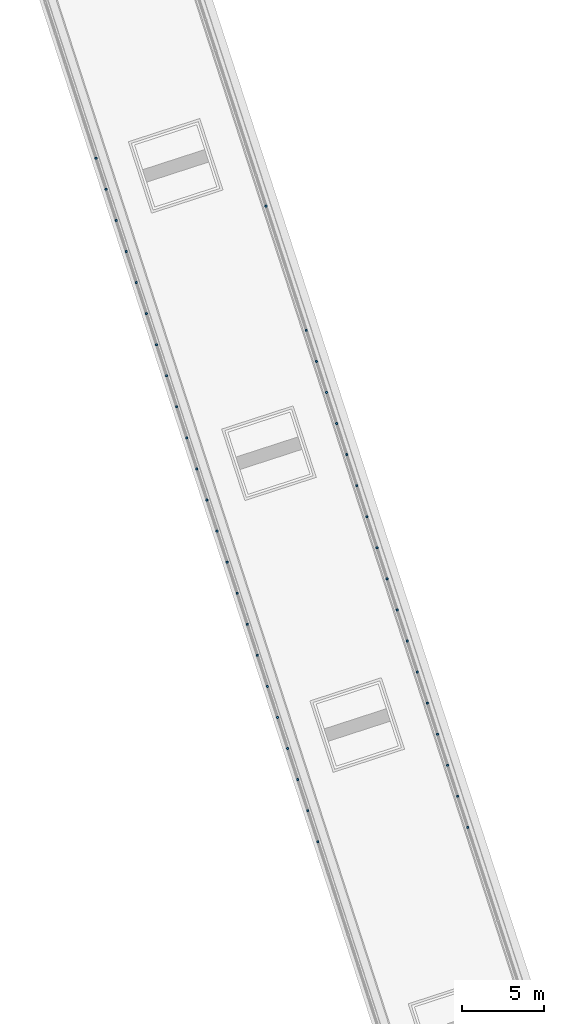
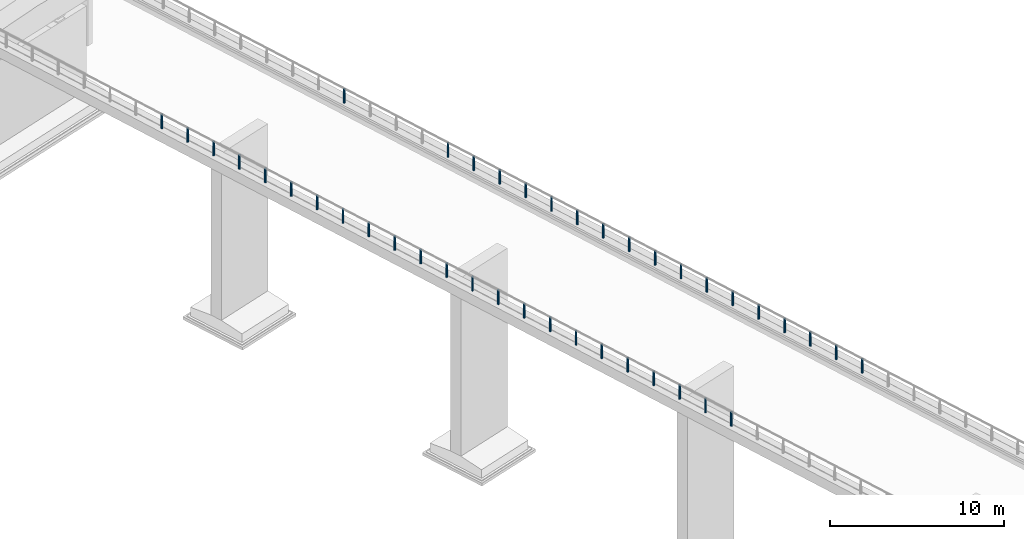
# Not in any storey, part 3 of 10: 41 members, 2 elements without a shape of their own.
"""IFC4X3_ADD2 model written with IfcOpenShell, lengths in metres."""

from ifc_helpers import new_model, entity, si_unit, converted_unit, derived_unit, direction, frame, origin, origin_2d, place, context, subcontext, project, library, spatial, circle, extrude, source, transform, mapped, type_object, type_shapes, element, aggregate, save


model = new_model("IFC4X3_ADD2")

# Units and contexts
model_context = context("Model", 3, precision=1e-05, world=origin(), true_north=direction((-0.011993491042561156, 0.9999280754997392)))
plan_context = context("Plan", 2, precision=1e-05, world=origin_2d())
body_context = subcontext(model_context, "Body", "Model", "MODEL_VIEW")
ifc_project = project(units=[si_unit("LENGTHUNIT", "METRE"), si_unit("AREAUNIT", "SQUARE_METRE"), si_unit("VOLUMEUNIT", "CUBIC_METRE"), si_unit("MASSUNIT", "GRAM", prefix="KILO"), converted_unit("TIMEUNIT", "year", entity("IfcTimeMeasure", 31557600.0), si_unit("TIMEUNIT", "SECOND"), dimensions=[0, 0, 1, 0, 0, 0, 0]), si_unit("PLANEANGLEUNIT", "RADIAN"), si_unit("THERMODYNAMICTEMPERATUREUNIT", "DEGREE_CELSIUS"), si_unit("FORCEUNIT", "NEWTON", prefix="KILO"), si_unit("PRESSUREUNIT", "PASCAL", prefix="MEGA"), si_unit("SOLIDANGLEUNIT", "STERADIAN"), derived_unit("MASSDENSITYUNIT", [(si_unit("MASSUNIT", "GRAM", prefix="KILO"), 1), (si_unit("VOLUMEUNIT", "CUBIC_METRE"), -1)]), derived_unit("MODULUSOFELASTICITYUNIT", [(si_unit("PRESSUREUNIT", "PASCAL", prefix="MEGA"), 1)]), derived_unit("THERMALEXPANSIONCOEFFICIENTUNIT", [(si_unit("THERMODYNAMICTEMPERATUREUNIT", "DEGREE_CELSIUS"), -1)])], contexts=[model_context, plan_context])
project_library = library(declared=ifc_project)

# Site, bridge, bridge parts
site_placement = place(None, origin())
site = spatial("IfcSite", under=ifc_project, at=site_placement, Name="Site BR-01", CompositionType="ELEMENT")
bridge_placement = place(site_placement, origin())
bridge = spatial("IfcBridge", under=site, at=bridge_placement, Name="BR-01", CompositionType="ELEMENT", PredefinedType="USERDEFINED")
bridge_part_1_placement = place(bridge_placement, origin())
bridge_part_1 = spatial("IfcBridgePart", under=bridge, at=bridge_part_1_placement, Name="Superstructure", CompositionType="ELEMENT", PredefinedType="SUPERSTRUCTURE", UsageType="LONGITUDINAL")
bridge_part_2_placement = place(bridge_part_1_placement, frame((0.0, 0.0, 62.729)))
bridge_part_2 = spatial("IfcBridgePart", under=bridge_part_1, at=bridge_part_2_placement, Name="Deck", CompositionType="ELEMENT", PredefinedType="DECK", UsageType="LONGITUDINAL")

# Railing, members
railing_1_placement = place(bridge_part_2_placement, frame((17.7389524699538, 118.69444238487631, 3.2577553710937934), z_axis=(0.0, 0.0, 1.0), x_axis=(0.3088039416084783, -0.951125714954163, 0.0)))
railing_1 = element("IfcRailing", 1, at=railing_1_placement, inside=bridge_part_2, Name="Bridge railing left", PredefinedType="GUARDRAIL")
member_type = type_object("IfcMemberType", Name="Railing post D140", PredefinedType="POST")
shared_shape = source(origin(), body_context, "Body", "SweptSolid", [extrude(circle(Radius=0.07), origin(), (0.0, 0.0, 1.0), 1.0)])
type_shapes(member_type, [shared_shape])
member_1_placement = place(bridge_part_2_placement, frame((25.150115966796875, 95.86763000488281, 2.1512947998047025), z_axis=(0.0, 0.0, 1.0), x_axis=(0.3088039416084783, -0.951125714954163, 0.0)))
member_1 = element("IfcMember", 2, at=member_1_placement, type_object=member_type, Name="Railing post left 13", PredefinedType="POST", context=body_context, shape_type="MappedRepresentation", body=[
    mapped(shared_shape, transform((0.0, 0.0, 0.0))),
])
member_2_placement = place(bridge_part_2_placement, frame((27.62050347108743, 88.25869164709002, 2.1158104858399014), z_axis=(0.0, 0.0, 1.0), x_axis=(0.3088039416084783, -0.951125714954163, 0.0)))
member_2 = element("IfcMember", 3, at=member_2_placement, type_object=member_type, Name="Railing post left 17", PredefinedType="POST", context=body_context, shape_type="MappedRepresentation", body=[
    mapped(shared_shape, transform((0.0, 0.0, 0.0))),
])
member_3_placement = place(bridge_part_2_placement, frame((28.23810108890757, 86.3564569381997, 2.106937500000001), z_axis=(0.0, 0.0, 1.0), x_axis=(0.3088039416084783, -0.951125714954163, 0.0)))
member_3 = element("IfcMember", 4, at=member_3_placement, type_object=member_type, Name="Railing post left 18", PredefinedType="POST", context=body_context, shape_type="MappedRepresentation", body=[
    mapped(shared_shape, transform((0.0, 0.0, 0.0))),
])
member_4_placement = place(bridge_part_2_placement, frame((28.855697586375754, 84.45422186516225, 2.0980645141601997), z_axis=(0.0, 0.0, 1.0), x_axis=(0.3088039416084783, -0.951125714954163, 0.0)))
member_4 = element("IfcMember", 5, at=member_4_placement, type_object=member_type, Name="Railing post left 19", PredefinedType="POST", context=body_context, shape_type="MappedRepresentation", body=[
    mapped(shared_shape, transform((0.0, 0.0, 0.0))),
])
member_5_placement = place(bridge_part_2_placement, frame((29.473294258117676, 82.55198860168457, 2.089191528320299), z_axis=(0.0, 0.0, 1.0), x_axis=(0.3088039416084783, -0.951125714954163, 0.0)))
member_5 = element("IfcMember", 6, at=member_5_placement, type_object=member_type, Name="Railing post left 20", PredefinedType="POST", context=body_context, shape_type="MappedRepresentation", body=[
    mapped(shared_shape, transform((0.0, 0.0, 0.0))),
])
member_6_placement = place(bridge_part_2_placement, frame((30.090891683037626, 80.64975375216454, 2.080318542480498), z_axis=(0.0, 0.0, 1.0), x_axis=(0.3088039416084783, -0.951125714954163, 0.0)))
member_6 = element("IfcMember", 7, at=member_6_placement, type_object=member_type, Name="Railing post left 21", PredefinedType="POST", context=body_context, shape_type="MappedRepresentation", body=[
    mapped(shared_shape, transform((0.0, 0.0, 0.0))),
])
member_7_placement = place(bridge_part_2_placement, frame((30.708487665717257, 78.74752026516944, 2.0714531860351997), z_axis=(0.0, 0.0, 1.0), x_axis=(0.3088039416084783, -0.951125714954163, 0.0)))
member_7 = element("IfcMember", 8, at=member_7_placement, type_object=member_type, Name="Railing post left 22", PredefinedType="POST", context=body_context, shape_type="MappedRepresentation", body=[
    mapped(shared_shape, transform((0.0, 0.0, 0.0))),
])
member_8_placement = place(bridge_part_2_placement, frame((31.326084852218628, 76.84528541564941, 2.062580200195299), z_axis=(0.0, 0.0, 1.0), x_axis=(0.3088039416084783, -0.951125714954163, 0.0)))
member_8 = element("IfcMember", 9, at=member_8_placement, type_object=member_type, Name="Railing post left 23", PredefinedType="POST", context=body_context, shape_type="MappedRepresentation", body=[
    mapped(shared_shape, transform((0.0, 0.0, 0.0))),
])
member_9_placement = place(bridge_part_2_placement, frame((31.943681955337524, 74.94305229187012, 2.053707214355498), z_axis=(0.0, 0.0, 1.0), x_axis=(0.3088039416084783, -0.951125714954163, 0.0)))
member_9 = element("IfcMember", 10, at=member_9_placement, type_object=member_type, Name="Railing post left 24", PredefinedType="POST", context=body_context, shape_type="MappedRepresentation", body=[
    mapped(shared_shape, transform((0.0, 0.0, 0.0))),
])
member_10_placement = place(bridge_part_2_placement, frame((32.561278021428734, 73.04081707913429, 2.0448342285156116), z_axis=(0.0, 0.0, 1.0), x_axis=(0.3088039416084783, -0.951125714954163, 0.0)))
member_10 = element("IfcMember", 11, at=member_10_placement, type_object=member_type, Name="Railing post left 25", PredefinedType="POST", context=body_context, shape_type="MappedRepresentation", body=[
    mapped(shared_shape, transform((0.0, 0.0, 0.0))),
])
member_11_placement = place(bridge_part_2_placement, frame((33.17887568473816, 71.13858222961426, 2.0359612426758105), z_axis=(0.0, 0.0, 1.0), x_axis=(0.3088039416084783, -0.951125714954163, 0.0)))
member_11 = element("IfcMember", 12, at=member_11_placement, type_object=member_type, Name="Railing post left 26", PredefinedType="POST", context=body_context, shape_type="MappedRepresentation", body=[
    mapped(shared_shape, transform((0.0, 0.0, 0.0))),
])
member_12_placement = place(bridge_part_2_placement, frame((33.7964723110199, 69.23634910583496, 2.027095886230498), z_axis=(0.0, 0.0, 1.0), x_axis=(0.3088039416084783, -0.951125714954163, 0.0)))
member_12 = element("IfcMember", 13, at=member_12_placement, type_object=member_type, Name="Railing post left 27", PredefinedType="POST", context=body_context, shape_type="MappedRepresentation", body=[
    mapped(shared_shape, transform((0.0, 0.0, 0.0))),
])
member_13_placement = place(bridge_part_2_placement, frame((34.414069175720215, 67.33411407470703, 2.0182229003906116), z_axis=(0.0, 0.0, 1.0), x_axis=(0.3088039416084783, -0.951125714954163, 0.0)))
member_13 = element("IfcMember", 14, at=member_13_placement, type_object=member_type, Name="Railing post left 28", PredefinedType="POST", context=body_context, shape_type="MappedRepresentation", body=[
    mapped(shared_shape, transform((0.0, 0.0, 0.0))),
])
member_14_placement = place(bridge_part_2_placement, frame((35.03166604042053, 65.4318790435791, 2.0093499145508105), z_axis=(0.0, 0.0, 1.0), x_axis=(0.3088039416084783, -0.951125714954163, 0.0)))
member_14 = element("IfcMember", 15, at=member_14_placement, type_object=member_type, Name="Railing post left 29", PredefinedType="POST", context=body_context, shape_type="MappedRepresentation", body=[
    mapped(shared_shape, transform((0.0, 0.0, 0.0))),
])
member_15_placement = place(bridge_part_2_placement, frame((35.64926290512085, 63.529645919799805, 2.00047692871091), z_axis=(0.0, 0.0, 1.0), x_axis=(0.3088039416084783, -0.951125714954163, 0.0)))
member_15 = element("IfcMember", 16, at=member_15_placement, type_object=member_type, Name="Railing post left 30", PredefinedType="POST", context=body_context, shape_type="MappedRepresentation", body=[
    mapped(shared_shape, transform((0.0, 0.0, 0.0))),
])
member_16_placement = place(bridge_part_2_placement, frame((36.26685988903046, 61.627410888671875, 1.9916039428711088), z_axis=(0.0, 0.0, 1.0), x_axis=(0.3088039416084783, -0.951125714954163, 0.0)))
member_16 = element("IfcMember", 17, at=member_16_placement, type_object=member_type, Name="Railing post left 31", PredefinedType="POST", context=body_context, shape_type="MappedRepresentation", body=[
    mapped(shared_shape, transform((0.0, 0.0, 0.0))),
])
member_17_placement = place(bridge_part_2_placement, frame((36.884456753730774, 59.725175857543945, 1.9827309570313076), z_axis=(0.0, 0.0, 1.0), x_axis=(0.3088039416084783, -0.951125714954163, 0.0)))
member_17 = element("IfcMember", 18, at=member_17_placement, type_object=member_type, Name="Railing post left 32", PredefinedType="POST", context=body_context, shape_type="MappedRepresentation", body=[
    mapped(shared_shape, transform((0.0, 0.0, 0.0))),
])
member_18_placement = place(bridge_part_2_placement, frame((37.50205389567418, 57.82294187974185, 1.9738656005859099), z_axis=(0.0, 0.0, 1.0), x_axis=(0.3088039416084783, -0.951125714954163, 0.0)))
member_18 = element("IfcMember", 19, at=member_18_placement, type_object=member_type, Name="Railing post left 33", PredefinedType="POST", context=body_context, shape_type="MappedRepresentation", body=[
    mapped(shared_shape, transform((0.0, 0.0, 0.0))),
])
aggregate(railing_1, [member_1, member_2, member_3, member_4, member_5, member_6, member_7, member_8, member_9, member_10, member_11, member_12, member_13, member_14, member_15, member_16, member_17, member_18])

railing_2_placement = place(bridge_part_2_placement, frame((9.178916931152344, 115.91495513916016, 3.319721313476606), z_axis=(0.0, 0.0, 1.0), x_axis=(0.3088039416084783, -0.951125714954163, 0.0)))
railing_2 = element("IfcRailing", 20, at=railing_2_placement, inside=bridge_part_2, Name="Bridge railing right", PredefinedType="GUARDRAIL")
member_19_placement = place(bridge_part_2_placement, frame((14.737267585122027, 98.79489870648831, 2.2278710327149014), z_axis=(0.0, 0.0, 1.0), x_axis=(0.3088039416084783, -0.951125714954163, 0.0)))
member_19 = element("IfcMember", 21, at=member_19_placement, type_object=member_type, Name="Railing post right 10", PredefinedType="POST", context=body_context, shape_type="MappedRepresentation", body=[
    mapped(shared_shape, transform((0.0, 0.0, 0.0))),
])
member_20_placement = place(bridge_part_2_placement, frame((15.354862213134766, 96.89266967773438, 2.217670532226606), z_axis=(0.0, 0.0, 1.0), x_axis=(0.3088039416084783, -0.951125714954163, 0.0)))
member_20 = element("IfcMember", 22, at=member_20_placement, type_object=member_type, Name="Railing post right 11", PredefinedType="POST", context=body_context, shape_type="MappedRepresentation", body=[
    mapped(shared_shape, transform((0.0, 0.0, 0.0))),
])
member_21_placement = place(bridge_part_2_placement, frame((15.972458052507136, 94.99044073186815, 2.2074624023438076), z_axis=(0.0, 0.0, 1.0), x_axis=(0.3088039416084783, -0.951125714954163, 0.0)))
member_21 = element("IfcMember", 23, at=member_21_placement, type_object=member_type, Name="Railing post right 12", PredefinedType="POST", context=body_context, shape_type="MappedRepresentation", body=[
    mapped(shared_shape, transform((0.0, 0.0, 0.0))),
])
member_22_placement = place(bridge_part_2_placement, frame((16.590051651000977, 93.08821487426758, 2.197261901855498), z_axis=(0.0, 0.0, 1.0), x_axis=(0.3088039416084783, -0.951125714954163, 0.0)))
member_22 = element("IfcMember", 24, at=member_22_placement, type_object=member_type, Name="Railing post right 13", PredefinedType="POST", context=body_context, shape_type="MappedRepresentation", body=[
    mapped(shared_shape, transform((0.0, 0.0, 0.0))),
])
member_23_placement = place(bridge_part_2_placement, frame((17.207646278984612, 91.18598584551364, 2.1870537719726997), z_axis=(0.0, 0.0, 1.0), x_axis=(0.3088039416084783, -0.951125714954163, 0.0)))
member_23 = element("IfcMember", 25, at=member_23_placement, type_object=member_type, Name="Railing post right 14", PredefinedType="POST", context=body_context, shape_type="MappedRepresentation", body=[
    mapped(shared_shape, transform((0.0, 0.0, 0.0))),
])
member_24_placement = place(bridge_part_2_placement, frame((17.82524022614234, 89.28375788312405, 2.176853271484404), z_axis=(0.0, 0.0, 1.0), x_axis=(0.3088039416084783, -0.951125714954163, 0.0)))
member_24 = element("IfcMember", 26, at=member_24_placement, type_object=member_type, Name="Railing post right 15", PredefinedType="POST", context=body_context, shape_type="MappedRepresentation", body=[
    mapped(shared_shape, transform((0.0, 0.0, 0.0))),
])
member_25_placement = place(bridge_part_2_placement, frame((18.442835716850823, 87.38152913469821, 2.166645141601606), z_axis=(0.0, 0.0, 1.0), x_axis=(0.3088039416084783, -0.951125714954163, 0.0)))
member_25 = element("IfcMember", 27, at=member_25_placement, type_object=member_type, Name="Railing post right 16", PredefinedType="POST", context=body_context, shape_type="MappedRepresentation", body=[
    mapped(shared_shape, transform((0.0, 0.0, 0.0))),
])
member_26_placement = place(bridge_part_2_placement, frame((19.060429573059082, 85.47929954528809, 2.1564370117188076), z_axis=(0.0, 0.0, 1.0), x_axis=(0.3088039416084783, -0.951125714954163, 0.0)))
member_26 = element("IfcMember", 28, at=member_26_placement, type_object=member_type, Name="Railing post right 17", PredefinedType="POST", context=body_context, shape_type="MappedRepresentation", body=[
    mapped(shared_shape, transform((0.0, 0.0, 0.0))),
])
member_27_placement = place(bridge_part_2_placement, frame((19.678024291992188, 83.57707214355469, 2.146236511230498), z_axis=(0.0, 0.0, 1.0), x_axis=(0.3088039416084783, -0.951125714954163, 0.0)))
member_27 = element("IfcMember", 29, at=member_27_placement, type_object=member_type, Name="Railing post right 18", PredefinedType="POST", context=body_context, shape_type="MappedRepresentation", body=[
    mapped(shared_shape, transform((0.0, 0.0, 0.0))),
])
member_28_placement = place(bridge_part_2_placement, frame((20.295618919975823, 81.67484502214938, 2.1360283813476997), z_axis=(0.0, 0.0, 1.0), x_axis=(0.3088039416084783, -0.951125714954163, 0.0)))
member_28 = element("IfcMember", 30, at=member_28_placement, type_object=member_type, Name="Railing post right 19", PredefinedType="POST", context=body_context, shape_type="MappedRepresentation", body=[
    mapped(shared_shape, transform((0.0, 0.0, 0.0))),
])
member_29_placement = place(bridge_part_2_placement, frame((20.91321286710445, 79.77261515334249, 2.125827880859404), z_axis=(0.0, 0.0, 1.0), x_axis=(0.3088039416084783, -0.951125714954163, 0.0)))
member_29 = element("IfcMember", 31, at=member_29_placement, type_object=member_type, Name="Railing post right 20", PredefinedType="POST", context=body_context, shape_type="MappedRepresentation", body=[
    mapped(shared_shape, transform((0.0, 0.0, 0.0))),
])
member_30_placement = place(bridge_part_2_placement, frame((21.530808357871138, 77.87038640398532, 2.115619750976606), z_axis=(0.0, 0.0, 1.0), x_axis=(0.3088039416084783, -0.951125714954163, 0.0)))
member_30 = element("IfcMember", 32, at=member_30_placement, type_object=member_type, Name="Railing post right 21", PredefinedType="POST", context=body_context, shape_type="MappedRepresentation", body=[
    mapped(shared_shape, transform((0.0, 0.0, 0.0))),
])
member_31_placement = place(bridge_part_2_placement, frame((22.14840165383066, 75.9681585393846, 2.1054192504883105), z_axis=(0.0, 0.0, 1.0), x_axis=(0.3088039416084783, -0.951125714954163, 0.0)))
member_31 = element("IfcMember", 33, at=member_31_placement, type_object=member_type, Name="Railing post right 22", PredefinedType="POST", context=body_context, shape_type="MappedRepresentation", body=[
    mapped(shared_shape, transform((0.0, 0.0, 0.0))),
])
member_32_placement = place(bridge_part_2_placement, frame((22.76599749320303, 74.0659295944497, 2.095211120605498), z_axis=(0.0, 0.0, 1.0), x_axis=(0.3088039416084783, -0.951125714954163, 0.0)))
member_32 = element("IfcMember", 34, at=member_32_placement, type_object=member_type, Name="Railing post right 23", PredefinedType="POST", context=body_context, shape_type="MappedRepresentation", body=[
    mapped(shared_shape, transform((0.0, 0.0, 0.0))),
])
member_33_placement = place(bridge_part_2_placement, frame((23.383591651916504, 72.1637020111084, 2.0850029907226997), z_axis=(0.0, 0.0, 1.0), x_axis=(0.3088039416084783, -0.951125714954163, 0.0)))
member_33 = element("IfcMember", 35, at=member_33_placement, type_object=member_type, Name="Railing post right 24", PredefinedType="POST", context=body_context, shape_type="MappedRepresentation", body=[
    mapped(shared_shape, transform((0.0, 0.0, 0.0))),
])
member_34_placement = place(bridge_part_2_placement, frame((24.00118589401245, 70.26147270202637, 2.074802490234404), z_axis=(0.0, 0.0, 1.0), x_axis=(0.3088039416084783, -0.951125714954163, 0.0)))
member_34 = element("IfcMember", 36, at=member_34_placement, type_object=member_type, Name="Railing post right 25", PredefinedType="POST", context=body_context, shape_type="MappedRepresentation", body=[
    mapped(shared_shape, transform((0.0, 0.0, 0.0))),
])
member_35_placement = place(bridge_part_2_placement, frame((24.618780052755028, 68.35924511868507, 2.064594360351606), z_axis=(0.0, 0.0, 1.0), x_axis=(0.3088039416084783, -0.951125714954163, 0.0)))
member_35 = element("IfcMember", 37, at=member_35_placement, type_object=member_type, Name="Railing post right 26", PredefinedType="POST", context=body_context, shape_type="MappedRepresentation", body=[
    mapped(shared_shape, transform((0.0, 0.0, 0.0))),
])
member_36_placement = place(bridge_part_2_placement, frame((25.236375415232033, 66.45701617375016, 2.0543938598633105), z_axis=(0.0, 0.0, 1.0), x_axis=(0.3088039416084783, -0.951125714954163, 0.0)))
member_36 = element("IfcMember", 38, at=member_36_placement, type_object=member_type, Name="Railing post right 27", PredefinedType="POST", context=body_context, shape_type="MappedRepresentation", body=[
    mapped(shared_shape, transform((0.0, 0.0, 0.0))),
])
member_37_placement = place(bridge_part_2_placement, frame((25.85396957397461, 64.55478858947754, 2.044185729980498), z_axis=(0.0, 0.0, 1.0), x_axis=(0.3088039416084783, -0.951125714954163, 0.0)))
member_37 = element("IfcMember", 39, at=member_37_placement, type_object=member_type, Name="Railing post right 28", PredefinedType="POST", context=body_context, shape_type="MappedRepresentation", body=[
    mapped(shared_shape, transform((0.0, 0.0, 0.0))),
])
member_38_placement = place(bridge_part_2_placement, frame((26.471564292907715, 62.65255928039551, 2.0339852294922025), z_axis=(0.0, 0.0, 1.0), x_axis=(0.3088039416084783, -0.951125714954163, 0.0)))
member_38 = element("IfcMember", 40, at=member_38_placement, type_object=member_type, Name="Railing post right 29", PredefinedType="POST", context=body_context, shape_type="MappedRepresentation", body=[
    mapped(shared_shape, transform((0.0, 0.0, 0.0))),
])
member_39_placement = place(bridge_part_2_placement, frame((27.089157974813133, 60.750331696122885, 2.023777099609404), z_axis=(0.0, 0.0, 1.0), x_axis=(0.3088039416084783, -0.951125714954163, 0.0)))
member_39 = element("IfcMember", 41, at=member_39_placement, type_object=member_type, Name="Railing post right 30", PredefinedType="POST", context=body_context, shape_type="MappedRepresentation", body=[
    mapped(shared_shape, transform((0.0, 0.0, 0.0))),
])
member_40_placement = place(bridge_part_2_placement, frame((27.7067538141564, 58.84810275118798, 2.013568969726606), z_axis=(0.0, 0.0, 1.0), x_axis=(0.3088039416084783, -0.951125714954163, 0.0)))
member_40 = element("IfcMember", 42, at=member_40_placement, type_object=member_type, Name="Railing post right 31", PredefinedType="POST", context=body_context, shape_type="MappedRepresentation", body=[
    mapped(shared_shape, transform((0.0, 0.0, 0.0))),
])
member_41_placement = place(bridge_part_2_placement, frame((28.32434825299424, 56.945874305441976, 2.0033684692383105), z_axis=(0.0, 0.0, 1.0), x_axis=(0.3088039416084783, -0.951125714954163, 0.0)))
member_41 = element("IfcMember", 43, at=member_41_placement, type_object=member_type, Name="Railing post right 32", PredefinedType="POST", context=body_context, shape_type="MappedRepresentation", body=[
    mapped(shared_shape, transform((0.0, 0.0, 0.0))),
])
aggregate(railing_2, [member_19, member_20, member_21, member_22, member_23, member_24, member_25, member_26, member_27, member_28, member_29, member_30, member_31, member_32, member_33, member_34, member_35, member_36, member_37, member_38, member_39, member_40, member_41])

save(model, "model.ifc")
